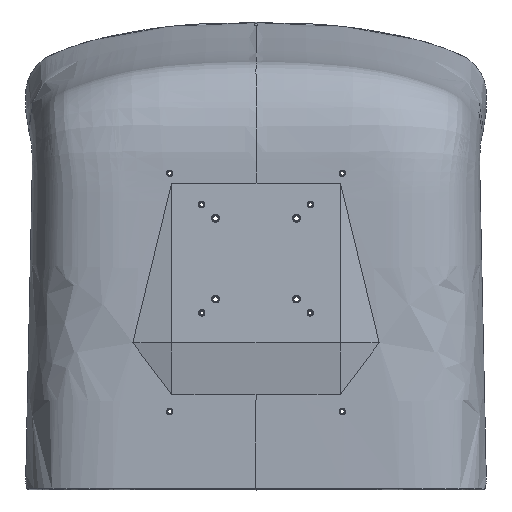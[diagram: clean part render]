
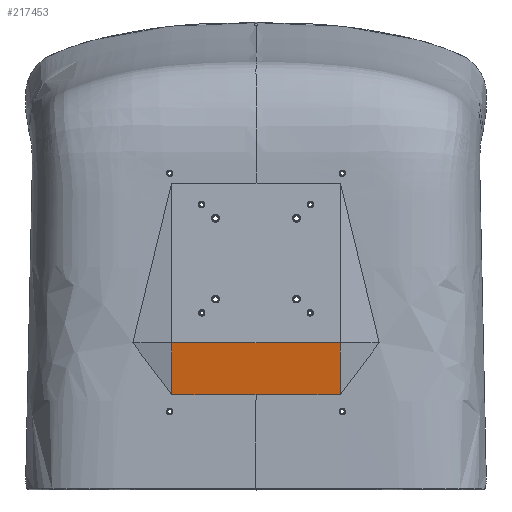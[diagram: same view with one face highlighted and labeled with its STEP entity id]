
A CAD part, front view. The second image highlights one B-rep face of the part: STEP entity #217453.
In plain terms, the highlighted planar face has unit normal (0, -0.99, -0.144).
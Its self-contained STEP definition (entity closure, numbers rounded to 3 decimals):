
#10473 = LINE ( 'NONE', #73248, #202842 ) ;
#17166 = VERTEX_POINT ( 'NONE', #148150 ) ;
#21367 = CARTESIAN_POINT ( 'NONE',  ( -29.997, -473.384, -473.262 ) ) ;
#28382 = EDGE_CURVE ( 'NONE', #17166, #331593, #200612, .T. ) ;
#30864 = ORIENTED_EDGE ( 'NONE', *, *, #295909, .F. ) ;
#45367 = CARTESIAN_POINT ( 'NONE',  ( 107.5, -482.995, -407.381 ) ) ;
#58047 = LINE ( 'NONE', #163148, #363208 ) ;
#65554 = VERTEX_POINT ( 'NONE', #377739 ) ;
#66247 = CARTESIAN_POINT ( 'NONE',  ( 19.998, -473.387, -473.244 ) ) ;
#68463 = CARTESIAN_POINT ( 'NONE',  ( 29.997, -473.384, -473.262 ) ) ;
#73248 = CARTESIAN_POINT ( 'NONE',  ( 107.5, -482.995, -407.381 ) ) ;
#82426 = CARTESIAN_POINT ( 'NONE',  ( 107.5, -482.995, -407.381 ) ) ;
#96030 = LINE ( 'NONE', #45367, #284724 ) ;
#104905 = EDGE_CURVE ( 'NONE', #65554, #293945, #96030, .T. ) ;
#109300 = VERTEX_POINT ( 'NONE', #328786 ) ;
#109598 = LINE ( 'NONE', #349124, #272593 ) ;
#113020 = AXIS2_PLACEMENT_3D ( 'NONE', #82426, #424933, #382494 ) ;
#114223 = VECTOR ( 'NONE', #286216, 1000. ) ;
#125176 = DIRECTION ( 'NONE',  ( -1., 0., 0. ) ) ;
#148150 = CARTESIAN_POINT ( 'NONE',  ( -29.997, -473.384, -473.262 ) ) ;
#150352 = EDGE_LOOP ( 'NONE', ( #316233, #194955, #377601, #151385, #269868, #308075, #30864 ) ) ;
#151385 = ORIENTED_EDGE ( 'NONE', *, *, #104905, .T. ) ;
#162286 = CARTESIAN_POINT ( 'NONE',  ( 0., -473.384, -473.262 ) ) ;
#163148 = CARTESIAN_POINT ( 'NONE',  ( 107.5, -473.384, -473.262 ) ) ;
#166697 = CARTESIAN_POINT ( 'NONE',  ( -19.998, -473.387, -473.244 ) ) ;
#169333 = EDGE_CURVE ( 'NONE', #318812, #331593, #291130, .T. ) ;
#178777 = PLANE ( 'NONE',  #113020 ) ;
#181248 = EDGE_CURVE ( 'NONE', #318812, #65554, #109598, .T. ) ;
#194955 = ORIENTED_EDGE ( 'NONE', *, *, #169333, .F. ) ;
#200612 = B_SPLINE_CURVE_WITH_KNOTS ( 'NONE', 3,
 ( #21367, #166697, #401825, #162286 ),
 .UNSPECIFIED., .F., .F.,
 ( 4, 4 ),
 ( 0.294, 0.324 ),
 .UNSPECIFIED. ) ;
#202036 = EDGE_CURVE ( 'NONE', #293945, #109300, #10473, .T. ) ;
#202842 = VECTOR ( 'NONE', #417948, 1000. ) ;
#217453 = ADVANCED_FACE ( 'NONE', ( #218984 ), #178777, .F. ) ;
#218984 = FACE_OUTER_BOUND ( 'NONE', #150352, .T. ) ;
#240365 = CARTESIAN_POINT ( 'NONE',  ( -107.5, -473.384, -473.262 ) ) ;
#245972 = LINE ( 'NONE', #384748, #114223 ) ;
#268631 = VERTEX_POINT ( 'NONE', #240365 ) ;
#269868 = ORIENTED_EDGE ( 'NONE', *, *, #202036, .T. ) ;
#272593 = VECTOR ( 'NONE', #359613, 1000. ) ;
#279281 = CARTESIAN_POINT ( 'NONE',  ( 107.5, -482.995, -407.381 ) ) ;
#284724 = VECTOR ( 'NONE', #297568, 1000. ) ;
#286216 = DIRECTION ( 'NONE',  ( 0., -0.144, 0.99 ) ) ;
#291130 = B_SPLINE_CURVE_WITH_KNOTS ( 'NONE', 3,
 ( #68463, #66247, #408751, #343800 ),
 .UNSPECIFIED., .F., .F.,
 ( 4, 4 ),
 ( 0.294, 0.324 ),
 .UNSPECIFIED. ) ;
#293945 = VERTEX_POINT ( 'NONE', #279281 ) ;
#295909 = EDGE_CURVE ( 'NONE', #17166, #268631, #58047, .T. ) ;
#297568 = DIRECTION ( 'NONE',  ( 0., -0.144, 0.99 ) ) ;
#306135 = EDGE_CURVE ( 'NONE', #268631, #109300, #245972, .T. ) ;
#308075 = ORIENTED_EDGE ( 'NONE', *, *, #306135, .F. ) ;
#316233 = ORIENTED_EDGE ( 'NONE', *, *, #28382, .T. ) ;
#318608 = CARTESIAN_POINT ( 'NONE',  ( 29.997, -473.384, -473.262 ) ) ;
#318812 = VERTEX_POINT ( 'NONE', #318608 ) ;
#328786 = CARTESIAN_POINT ( 'NONE',  ( -107.5, -482.995, -407.381 ) ) ;
#331593 = VERTEX_POINT ( 'NONE', #340610 ) ;
#340610 = CARTESIAN_POINT ( 'NONE',  ( 0., -473.384, -473.262 ) ) ;
#343800 = CARTESIAN_POINT ( 'NONE',  ( 0., -473.384, -473.262 ) ) ;
#349124 = CARTESIAN_POINT ( 'NONE',  ( -107.5, -473.384, -473.262 ) ) ;
#359613 = DIRECTION ( 'NONE',  ( 1., 0., 0. ) ) ;
#363208 = VECTOR ( 'NONE', #125176, 1000. ) ;
#377601 = ORIENTED_EDGE ( 'NONE', *, *, #181248, .T. ) ;
#377739 = CARTESIAN_POINT ( 'NONE',  ( 107.5, -473.384, -473.262 ) ) ;
#382494 = DIRECTION ( 'NONE',  ( 0., -0.144, 0.99 ) ) ;
#384748 = CARTESIAN_POINT ( 'NONE',  ( -107.5, -482.995, -407.381 ) ) ;
#401825 = CARTESIAN_POINT ( 'NONE',  ( -9.998, -473.385, -473.256 ) ) ;
#408751 = CARTESIAN_POINT ( 'NONE',  ( 9.998, -473.385, -473.256 ) ) ;
#417948 = DIRECTION ( 'NONE',  ( -1., 0., 0. ) ) ;
#424933 = DIRECTION ( 'NONE',  ( 0., 0.99, 0.144 ) ) ;
